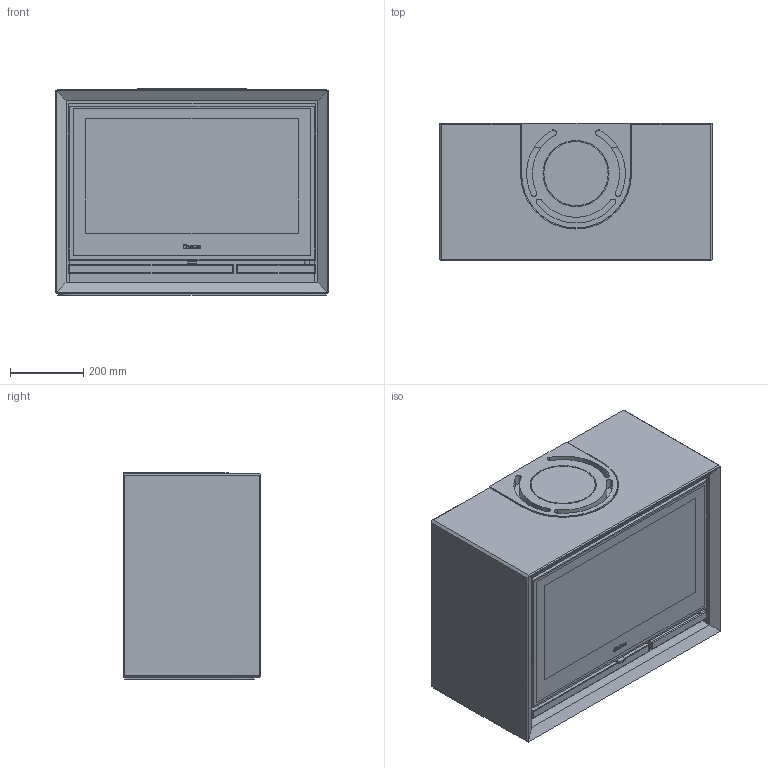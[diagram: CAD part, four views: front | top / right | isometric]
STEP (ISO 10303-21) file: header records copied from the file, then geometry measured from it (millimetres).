
FILE_DESCRIPTION(/* description */ ('Unknown','CAx-IF Rec.Pracs.---Representation and Presentation of Product Manufacturing Information (PMI)---4.0---2014-10-13','CAx-IF Rec.Pracs.---3D Tessellated Geometry---0.4---2014-09-14','2;1'),/* implementation_level */ '2;1');
FILE_NAME(/* name */ 'C330 Assembly',/* time_stamp */ '2016-12-29T10:36:33+01:00',/* author */ ('Unknown'),/* organization */ ('Unknown'),/* preprocessor_version */ 'ST-DEVELOPER v16.7',/* originating_system */ 'DEX',/* authorisation */ $);
FILE_SCHEMA (('AP242_MANAGED_MODEL_BASED_3D_ENGINEERING_MIM_LF { 1 0 10303 442 20130219 1 4 }'));
Length unit declared in the file: millimetre
Products named in the file (9): DSN1015763; DSN1015730; DSN1015708; DSN1015718; DSN1015711; DSN1015741; DSN1015743; DSN1015784; DSN1015785
Assembly tree (8 placements, depth 2):
  DSN1015763
    DSN1015730
    DSN1015708
    DSN1015718
    DSN1015711
    DSN1015741
    DSN1015743
    DSN1015784
    DSN1015785
Bounding box: 750 x 375 x 565.48 mm (x, y, z)
Volume: 118626905.6 mm3; surface area: 7666877.6 mm2
Topology: 9 solids, 9 shells, 802 faces, 2085 edges, 1386 vertices
Faces by surface type: plane 527, bspline 150, cylinder 101, sphere 14, torus 10
Full cylindrical faces by diameter (mm): 14 x1, 169 x1, 171.6 x1, 172 x1, 176 x1, 181 x1
Entity records: 31571 total; most frequent: CARTESIAN_POINT 13088, ORIENTED_EDGE 4088, DIRECTION 3026, EDGE_CURVE 2044, VERTEX_POINT 1383, LINE 1076, VECTOR 1076, AXIS2_PLACEMENT_3D 975
